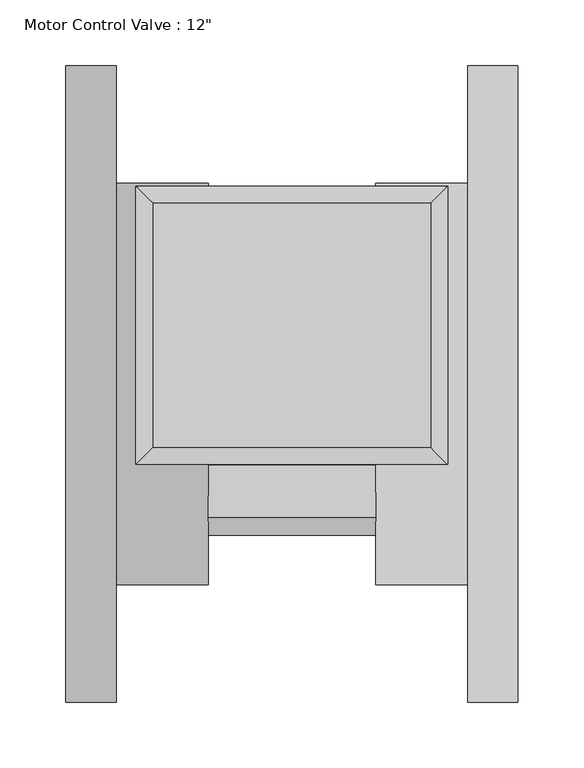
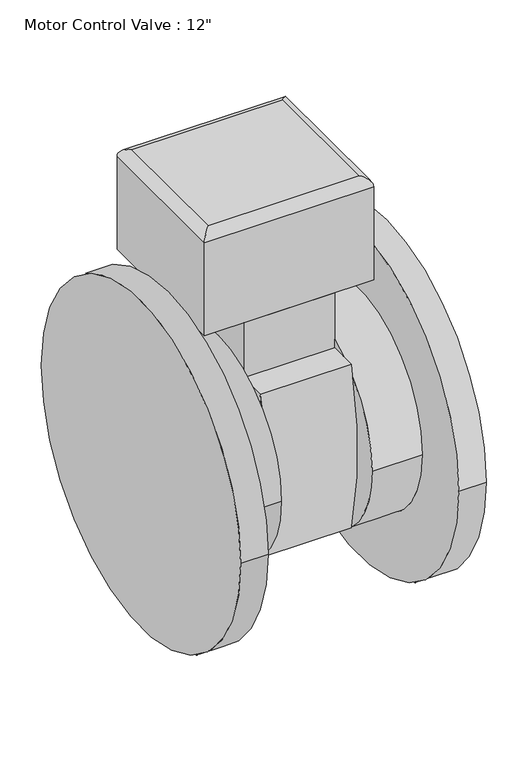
"""IFC4 building model written with IfcOpenShell, lengths in millimetres: valve geometry."""

from ifc_helpers import new_model, si_unit, frame, origin, place, context, project, spatial, circle_curve, ellipse_curve, source, transform, mapped, element, save
from ifc_brep_helpers import plane_surface, cylinder_surface, advanced_brep


def valve_80cb7df7(model_context):
    return source(origin(), model_context, "Body", "AdvancedBrep", [
        advanced_brep(
        [(118.26875, 150.01875, 345.4796875), (105.56875, 137.31875, 358.1796875), (105.56875, -48.41875, 358.1796875), (118.26875, -61.11875, 345.4796875), (-105.56875, -48.41875, 358.1796875), (-118.26875, -61.11875, 345.4796875), (-105.56875, 137.31875, 358.1796875), (-118.26875, 150.01875, 345.4796875), (118.26875, -61.11875, 208.1609375), (-118.26875, -61.11875, 208.1609375), (118.26875, 150.01875, 208.1609375), (-118.26875, 150.01875, 208.1609375)],
        [
            (0, 1, ellipse_curve(frame((105.56875, 137.31875, 345.4796875), z_axis=(0.7071067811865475, -0.7071067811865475, 0.0), x_axis=(0.7071067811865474, 0.7071067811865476, 0.0)), 17.9605122, 12.7)),
            (1, 2),
            (2, 3, ellipse_curve(frame((105.56875, -48.41875, 345.4796875), z_axis=(0.7071067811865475, 0.7071067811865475, 0.0), x_axis=(-0.7071067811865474, 0.7071067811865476, 0.0)), 17.9605122, 12.7)),
            (3, 0),
            (2, 4),
            (4, 5, ellipse_curve(frame((-105.56875, -48.41875, 345.4796875), z_axis=(0.7071067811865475, -0.7071067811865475, 0.0), x_axis=(0.7071067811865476, 0.7071067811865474, 0.0)), 17.9605122, 12.7)),
            (5, 3),
            (4, 6),
            (6, 7, ellipse_curve(frame((-105.56875, 137.31875, 345.4796875), z_axis=(-0.7071067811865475, -0.7071067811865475, 0.0), x_axis=(0.7071067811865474, -0.7071067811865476, 0.0)), 17.9605122, 12.7)),
            (7, 5),
            (0, 7),
            (6, 1),
            (8, 3),
            (5, 9),
            (9, 8),
            (10, 11),
            (11, 7),
            (0, 10),
            (8, 10),
            (11, 9),
        ],
        [
            cylinder_surface(frame((105.56875, 150.01875, 345.4796875), z_axis=(0.0, 1.0, 0.0), x_axis=(1.0, 0.0, 0.0)), 12.7),
            cylinder_surface(frame((118.26875, -48.41875, 345.4796875), z_axis=(1.0, 0.0, 0.0), x_axis=(0.0, -1.0, 0.0)), 12.7),
            cylinder_surface(frame((-105.56875, -61.11875, 345.4796875), z_axis=(0.0, -1.0, 0.0), x_axis=(-1.0, 0.0, 0.0)), 12.7),
            cylinder_surface(frame((-118.26875, 137.31875, 345.4796875), z_axis=(-1.0, 0.0, 0.0), x_axis=(0.0, 1.0, 0.0)), 12.7),
            plane_surface(frame((118.26875, -61.11875, 208.1609375), z_axis=(0.0, -1.0, 0.0), x_axis=(0.0, 0.0, 1.0))),
            plane_surface(frame((118.26875, 150.01875, 208.1609375), z_axis=(0.0, 1.0, 0.0), x_axis=(0.0, 0.0, -1.0))),
            plane_surface(frame((118.26875, -61.11875, 208.1609375), z_axis=(1.0, 0.0, 0.0), x_axis=(0.0, 1.0, 0.0))),
            plane_surface(frame((-118.26875, -61.11875, 345.4796875), z_axis=(-1.0, 0.0, 0.0), x_axis=(0.0, 1.0, 0.0))),
            plane_surface(frame((-118.26875, -61.11875, 208.1609375), z_axis=(0.0, 0.0, -1.0), x_axis=(0.0, 1.0, 0.0))),
            plane_surface(frame((105.56875, -48.41875, 358.1796875), z_axis=(0.0, 0.0, 1.0), x_axis=(0.0, 1.0, 0.0))),
        ],
        [
            (0, [[1, 2, 3, 4]]),
            (1, [[-3, 5, 6, 7]]),
            (2, [[-6, 8, 9, 10]]),
            (3, [[-1, 11, -9, 12]]),
            (4, [[13, -7, 14, 15]]),
            (5, [[16, 17, -11, 18]]),
            (6, [[-13, 19, -18, -4]]),
            (7, [[-14, -10, -17, 20]]),
            (8, [[-15, -20, -16, -19]]),
            (9, [[-2, -12, -8, -5]]),
        ],
    ),
        advanced_brep(
        [(-171.45, -241.3, 0.0), (-171.45, 241.3, 0.0), (-133.35, -241.3, 0.0), (-133.35, 241.3, 0.0), (-133.35, -152.4, 0.0), (-133.35, 152.4, 0.0), (-63.5, -152.4, 0.0), (-63.5, -101.8235974, -113.3918649), (-63.5, -105.4939434, 109.9853986), (-63.5, -100.803125, -114.3), (-63.5, 100.803125, -114.3), (-63.5, 104.2140756, -111.1988599), (-63.5, 152.4, 0.0), (-63.5, 105.6610709, 109.8248519), (-63.5, 84.2422697, 127.0), (-63.5, 61.11875, 139.6075156), (-63.5, 61.11875, 127.0), (-63.5, -61.11875, 139.6075156), (-63.5, -84.2422697, 127.0), (-63.5, -61.11875, 127.0), (63.5, -84.2422697, 127.0), (63.5, -101.6, 127.0), (63.5, -105.4939434, 109.9853986), (63.5, 101.6, 127.0), (63.5, 84.2422697, 127.0), (63.5, 105.6610709, 109.8248519), (63.5, -101.8235974, -113.3918649), (63.5, -101.6, -114.3), (63.5, -100.803125, -114.3), (63.5, 100.803125, -114.3), (63.5, 103.4849501, -114.3), (63.5, 104.2140756, -111.1988599), (-63.5, -101.6, -114.3), (-63.5, 103.4849501, -114.3), (-63.5, 101.6, 127.0), (-63.5, -101.6, 127.0), (63.5, 61.11875, 127.0), (63.5, -61.11875, 127.0), (63.5, 61.11875, 139.6075156), (63.5, -61.11875, 139.6075156), (63.5, -152.4, 0.0), (63.5, 152.4, 0.0), (133.35, 152.4, 0.0), (133.35, -152.4, 0.0), (171.45, 241.3, 0.0), (171.45, -241.3, 0.0), (133.35, 241.3, 0.0), (133.35, -241.3, 0.0), (63.5, 61.11875, 208.1609375), (63.5, -61.11875, 208.1609375), (-63.5, -61.11875, 208.1609375), (-63.5, 61.11875, 208.1609375)],
        [
            (0, 1, circle_curve(frame((-171.45, 0.0, 0.0), z_axis=(-1.0, 0.0, 0.0), x_axis=(0.0, 1.0, 0.0)), 241.3)),
            (1, 0, circle_curve(frame((-171.45, 0.0, 0.0), z_axis=(-1.0, 0.0, 0.0), x_axis=(0.0, 1.0, 0.0)), 241.3)),
            (2, 3, circle_curve(frame((-133.35, 0.0, 0.0), z_axis=(1.0, 0.0, 0.0), x_axis=(0.0, 1.0, 0.0)), 241.3)),
            (3, 2, circle_curve(frame((-133.35, 0.0, 0.0), z_axis=(1.0, 0.0, 0.0), x_axis=(0.0, 1.0, 0.0)), 241.3)),
            (4, 5, circle_curve(frame((-133.35, 0.0, 0.0), z_axis=(-1.0, 0.0, 0.0), x_axis=(0.0, 1.0, 0.0)), 152.4)),
            (5, 4, circle_curve(frame((-133.35, 0.0, 0.0), z_axis=(-1.0, 0.0, 0.0), x_axis=(0.0, 1.0, 0.0)), 152.4)),
            (0, 2),
            (3, 1),
            (6, 7, circle_curve(frame((-63.5, 0.0, 0.0), z_axis=(1.0, 0.0, 0.0), x_axis=(0.0, 1.0, 0.0)), 152.4)),
            (7, 8, circle_curve(frame((-63.5, 386.4610039, 6.35), z_axis=(-1.0, 0.0, 0.0), x_axis=(0.0, 1.0, 0.0)), 502.7523904)),
            (8, 6, circle_curve(frame((-63.5, 0.0, 0.0), z_axis=(1.0, 0.0, 0.0), x_axis=(0.0, 1.0, 0.0)), 152.4)),
            (9, 10, circle_curve(frame((-63.5, 0.0, 0.0), z_axis=(1.0, 0.0, 0.0), x_axis=(0.0, 1.0, 0.0)), 152.4)),
            (10, 9),
            (11, 12, circle_curve(frame((-63.5, 0.0, 0.0), z_axis=(1.0, 0.0, 0.0), x_axis=(0.0, 1.0, 0.0)), 152.4)),
            (12, 13, circle_curve(frame((-63.5, 0.0, 0.0), z_axis=(1.0, 0.0, 0.0), x_axis=(0.0, 1.0, 0.0)), 152.4)),
            (13, 11, circle_curve(frame((-63.5, -386.4610039, 2.5300781), z_axis=(-1.0, 0.0, 0.0), x_axis=(0.0, 1.0, 0.0)), 503.6827424)),
            (14, 15, circle_curve(frame((-63.5, 0.0, 0.0), z_axis=(1.0, 0.0, 0.0), x_axis=(0.0, 1.0, 0.0)), 152.4)),
            (15, 16),
            (16, 14),
            (17, 18, circle_curve(frame((-63.5, 0.0, 0.0), z_axis=(1.0, 0.0, 0.0), x_axis=(0.0, 1.0, 0.0)), 152.4)),
            (18, 19),
            (19, 17),
            (4, 6),
            (8, 18, circle_curve(frame((-63.5, 0.0, 0.0), z_axis=(-1.0, 0.0, 0.0), x_axis=(0.0, 1.0, 0.0)), 152.4)),
            (17, 15, circle_curve(frame((-63.5, 0.0, 0.0), z_axis=(-1.0, 0.0, 0.0), x_axis=(0.0, 1.0, 0.0)), 152.4)),
            (14, 13, circle_curve(frame((-63.5, 0.0, 0.0), z_axis=(-1.0, 0.0, 0.0), x_axis=(0.0, 1.0, 0.0)), 152.4)),
            (12, 5),
            (11, 10, circle_curve(frame((-63.5, 0.0, 0.0), z_axis=(-1.0, 0.0, 0.0), x_axis=(0.0, 1.0, 0.0)), 152.4)),
            (9, 7, circle_curve(frame((-63.5, 0.0, 0.0), z_axis=(-1.0, 0.0, 0.0), x_axis=(0.0, 1.0, 0.0)), 152.4)),
            (20, 21),
            (21, 22, circle_curve(frame((63.5, 386.4610039, 6.35), z_axis=(1.0, 0.0, 0.0), x_axis=(0.0, 1.0, 0.0)), 502.7523904)),
            (22, 20, circle_curve(frame((63.5, 0.0, 0.0), z_axis=(-1.0, 0.0, 0.0), x_axis=(0.0, -1.0, 0.0)), 152.4)),
            (23, 24),
            (24, 25, circle_curve(frame((63.5, 0.0, 0.0), z_axis=(-1.0, 0.0, 0.0), x_axis=(0.0, -1.0, 0.0)), 152.4)),
            (25, 23, circle_curve(frame((63.5, -386.4610039, 2.5300781), z_axis=(1.0, 0.0, 0.0), x_axis=(0.0, 1.0, 0.0)), 503.6827424)),
            (26, 27, circle_curve(frame((63.5, 386.4610039, 6.35), z_axis=(1.0, 0.0, 0.0), x_axis=(0.0, 1.0, 0.0)), 502.7523904)),
            (27, 28),
            (28, 26, circle_curve(frame((63.5, 0.0, 0.0), z_axis=(-1.0, 0.0, 0.0), x_axis=(0.0, -1.0, 0.0)), 152.4)),
            (29, 30),
            (30, 31, circle_curve(frame((63.5, -386.4610039, 2.5300781), z_axis=(1.0, 0.0, 0.0), x_axis=(0.0, 1.0, 0.0)), 503.6827424)),
            (31, 29, circle_curve(frame((63.5, 0.0, 0.0), z_axis=(-1.0, 0.0, 0.0), x_axis=(0.0, -1.0, 0.0)), 152.4)),
            (32, 7, circle_curve(frame((-63.5, 386.4610039, 6.35), z_axis=(-1.0, 0.0, 0.0), x_axis=(0.0, 1.0, 0.0)), 502.7523904)),
            (9, 32),
            (33, 10),
            (11, 33, circle_curve(frame((-63.5, -386.4610039, 2.5300781), z_axis=(-1.0, 0.0, 0.0), x_axis=(0.0, 1.0, 0.0)), 503.6827424)),
            (14, 34),
            (34, 13, circle_curve(frame((-63.5, -386.4610039, 2.5300781), z_axis=(-1.0, 0.0, 0.0), x_axis=(0.0, 1.0, 0.0)), 503.6827424)),
            (35, 18),
            (8, 35, circle_curve(frame((-63.5, 386.4610039, 6.35), z_axis=(-1.0, 0.0, 0.0), x_axis=(0.0, 1.0, 0.0)), 502.7523904)),
            (23, 34),
            (16, 36),
            (36, 24),
            (35, 21),
            (20, 37),
            (37, 19),
            (32, 27),
            (26, 22, circle_curve(frame((63.5, 386.4610039, 6.35), z_axis=(-1.0, 0.0, 0.0), x_axis=(0.0, 1.0, 0.0)), 502.7523904)),
            (33, 30),
            (29, 28),
            (25, 31, circle_curve(frame((63.5, -386.4610039, 2.5300781), z_axis=(-1.0, 0.0, 0.0), x_axis=(0.0, 1.0, 0.0)), 503.6827424)),
            (36, 38),
            (38, 24, circle_curve(frame((63.5, 0.0, 0.0), z_axis=(-1.0, 0.0, 0.0), x_axis=(0.0, -1.0, 0.0)), 152.4)),
            (20, 39, circle_curve(frame((63.5, 0.0, 0.0), z_axis=(-1.0, 0.0, 0.0), x_axis=(0.0, -1.0, 0.0)), 152.4)),
            (39, 37),
            (40, 22, circle_curve(frame((63.5, 0.0, 0.0), z_axis=(-1.0, 0.0, 0.0), x_axis=(0.0, -1.0, 0.0)), 152.4)),
            (26, 40, circle_curve(frame((63.5, 0.0, 0.0), z_axis=(-1.0, 0.0, 0.0), x_axis=(0.0, -1.0, 0.0)), 152.4)),
            (29, 28, circle_curve(frame((63.5, 0.0, 0.0), z_axis=(-1.0, 0.0, 0.0), x_axis=(0.0, -1.0, 0.0)), 152.4)),
            (25, 41, circle_curve(frame((63.5, 0.0, 0.0), z_axis=(-1.0, 0.0, 0.0), x_axis=(0.0, -1.0, 0.0)), 152.4)),
            (41, 31, circle_curve(frame((63.5, 0.0, 0.0), z_axis=(-1.0, 0.0, 0.0), x_axis=(0.0, -1.0, 0.0)), 152.4)),
            (42, 41),
            (38, 39, circle_curve(frame((63.5, 0.0, 0.0), z_axis=(1.0, 0.0, 0.0), x_axis=(0.0, -1.0, 0.0)), 152.4)),
            (40, 43),
            (43, 42, circle_curve(frame((133.35, 0.0, 0.0), z_axis=(-1.0, 0.0, 0.0), x_axis=(0.0, -1.0, 0.0)), 152.4)),
            (42, 43, circle_curve(frame((133.35, 0.0, 0.0), z_axis=(-1.0, 0.0, 0.0), x_axis=(0.0, -1.0, 0.0)), 152.4)),
            (44, 45, circle_curve(frame((171.45, 0.0, 0.0), z_axis=(1.0, 0.0, 0.0), x_axis=(0.0, -1.0, 0.0)), 241.3)),
            (45, 44, circle_curve(frame((171.45, 0.0, 0.0), z_axis=(1.0, 0.0, 0.0), x_axis=(0.0, -1.0, 0.0)), 241.3)),
            (46, 47, circle_curve(frame((133.35, 0.0, 0.0), z_axis=(-1.0, 0.0, 0.0), x_axis=(0.0, -1.0, 0.0)), 241.3)),
            (47, 46, circle_curve(frame((133.35, 0.0, 0.0), z_axis=(-1.0, 0.0, 0.0), x_axis=(0.0, -1.0, 0.0)), 241.3)),
            (44, 46),
            (47, 45),
            (48, 49),
            (49, 39),
            (38, 48),
            (50, 51),
            (51, 15),
            (17, 50),
            (51, 48),
            (50, 49),
        ],
        [
            plane_surface(frame((-171.45, 0.0, 0.0), z_axis=(-1.0, 0.0, 0.0), x_axis=(0.0, 0.0, 1.0))),
            plane_surface(frame((-133.35, 0.0, 0.0), z_axis=(1.0, 0.0, 0.0), x_axis=(0.0, 0.0, 1.0))),
            cylinder_surface(frame((-171.45, 0.0, 0.0), z_axis=(-1.0, 0.0, 0.0), x_axis=(0.0, 1.0, 0.0)), 241.3),
            plane_surface(frame((-63.5, 0.0, 0.0), z_axis=(1.0, 0.0, 0.0), x_axis=(0.0, 0.0, 1.0))),
            cylinder_surface(frame((-133.35, 0.0, 0.0), z_axis=(-1.0, 0.0, 0.0), x_axis=(0.0, 1.0, 0.0)), 152.4),
            plane_surface(frame((63.5, -101.6, 127.0), z_axis=(1.0, 0.0, 0.0), x_axis=(0.0, -1.0, 0.0))),
            plane_surface(frame((-63.5, -101.6, 127.0), z_axis=(-1.0, 0.0, 0.0), x_axis=(0.0, 1.0, 0.0))),
            plane_surface(frame((63.5, 101.6, 127.0), z_axis=(0.0, 0.0, 1.0), x_axis=(-1.0, 0.0, 0.0))),
            cylinder_surface(frame((-63.5, 386.4610039, 6.35), z_axis=(1.0, 0.0, 0.0), x_axis=(0.0, 1.0, 0.0)), 502.7523904),
            plane_surface(frame((63.5, -101.6, -114.3), z_axis=(0.0, 0.0, -1.0), x_axis=(-1.0, 0.0, 0.0))),
            cylinder_surface(frame((-63.5, -386.4610039, 2.5300781), z_axis=(1.0, 0.0, 0.0), x_axis=(0.0, 1.0, 0.0)), 503.6827424),
            plane_surface(frame((63.5, 0.0, 0.0), z_axis=(-1.0, 0.0, 0.0), x_axis=(0.0, 0.0, 1.0))),
            cylinder_surface(frame((133.35, 0.0, 0.0), z_axis=(1.0, 0.0, 0.0), x_axis=(0.0, -1.0, 0.0)), 152.4),
            plane_surface(frame((171.45, 0.0, 0.0), z_axis=(1.0, 0.0, 0.0), x_axis=(0.0, 0.0, 1.0))),
            plane_surface(frame((133.35, 0.0, 0.0), z_axis=(-1.0, 0.0, 0.0), x_axis=(0.0, 0.0, 1.0))),
            cylinder_surface(frame((171.45, 0.0, 0.0), z_axis=(1.0, 0.0, 0.0), x_axis=(0.0, -1.0, 0.0)), 241.3),
            plane_surface(frame((63.5, 61.11875, 127.0), z_axis=(1.0, 0.0, 0.0), x_axis=(0.0, 0.0, 1.0))),
            plane_surface(frame((-63.5, 61.11875, 127.0), z_axis=(-1.0, 0.0, 0.0), x_axis=(0.0, 0.0, -1.0))),
            plane_surface(frame((63.5, 61.11875, 127.0), z_axis=(0.0, 1.0, 0.0), x_axis=(-1.0, 0.0, 0.0))),
            plane_surface(frame((63.5, 61.11875, 208.1609375), z_axis=(0.0, 0.0, 1.0), x_axis=(-1.0, 0.0, 0.0))),
            plane_surface(frame((63.5, -61.11875, 208.1609375), z_axis=(0.0, -1.0, 0.0), x_axis=(-1.0, 0.0, 0.0))),
        ],
        [
            (0, [[1, 2]]),
            (1, [[3, 4], [5, 6]]),
            (2, [[-1, 7, -4, 8]]),
            (2, [[-2, -8, -3, -7]]),
            (3, [[9, 10, 11]]),
            (3, [[12, 13]]),
            (3, [[14, 15, 16]]),
            (3, [[17, 18, 19]]),
            (3, [[20, 21, 22]]),
            (4, [[23, -11, 24, -20, 25, -17, 26, -15, 27, -5]]),
            (4, [[-23, -6, -27, -14, 28, -12, 29, -9]]),
            (5, [[30, 31, 32]]),
            (5, [[33, 34, 35]]),
            (5, [[36, 37, 38]]),
            (5, [[39, 40, 41]]),
            (6, [[42, -29, 43]]),
            (6, [[44, -28, 45]]),
            (6, [[46, 47, -26]]),
            (6, [[48, -24, 49]]),
            (7, [[50, -46, -19, 51, 52, -33]]),
            (7, [[53, -30, 54, 55, -21, -48]]),
            (8, [[-53, -49, -10, -42, 56, -36, 57, -31]]),
            (9, [[-56, -43, -13, -44, 58, -39, 59, -37]]),
            (10, [[-50, -35, 60, -40, -58, -45, -16, -47]]),
            (11, [[-52, 61, 62]]),
            (11, [[-54, 63, 64]]),
            (11, [[65, -57, 66]]),
            (11, [[67, -59]]),
            (11, [[68, 69, -60]]),
            (12, [[70, -68, -34, -62, 71, -63, -32, -65, 72, 73]]),
            (12, [[-70, 74, -72, -66, -38, -67, -41, -69]]),
            (13, [[75, 76]]),
            (14, [[77, 78], [-73, -74]]),
            (15, [[-75, 79, -78, 80]]),
            (15, [[-76, -80, -77, -79]]),
            (16, [[81, 82, -71, 83]]),
            (17, [[84, 85, -25, 86]]),
            (18, [[87, -83, -61, -51, -18, -85]]),
            (19, [[-81, -87, -84, 88]]),
            (20, [[-88, -86, -22, -55, -64, -82]]),
        ],
    ),
    ])


if __name__ == "__main__":
    model = new_model("IFC4")
    model_context = context("Model", 3, world=origin())
    ifc_project = project(units=[si_unit("LENGTHUNIT", "METRE", prefix="MILLI")], contexts=[model_context])
    site = spatial("IfcSite", under=ifc_project)
    building = spatial("IfcBuilding", under=site)
    placement = place(None, origin())
    valve_shape = valve_80cb7df7(model_context)
    element("IfcValve", 1, ObjectType="Motor Control Valve : 12\"", at=placement, inside=building, context=model_context, shape_type="MappedRepresentation", body=[
        mapped(valve_shape, transform((0.0, 0.0, 0.0), x_axis=(1.0, 0.0, 0.0), y_axis=(0.0, 1.0, 0.0), z_axis=(0.0, 0.0, 1.0))),
    ])
    save(model, "model.ifc")
